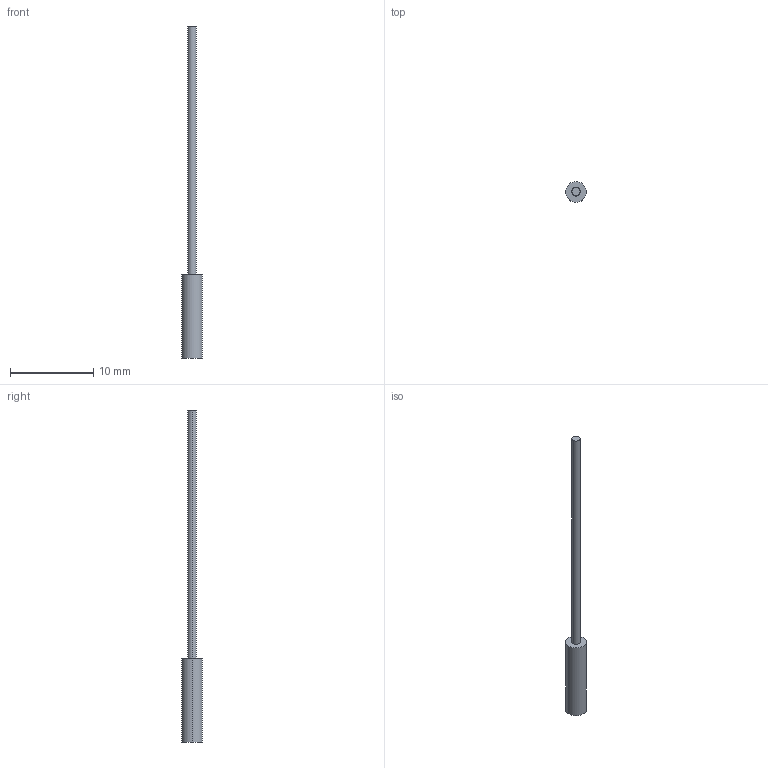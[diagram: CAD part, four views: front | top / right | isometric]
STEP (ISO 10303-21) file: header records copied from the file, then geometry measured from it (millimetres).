
FILE_DESCRIPTION (( 'STEP AP203' ), '1' );
FILE_NAME ('FQ-55_T.STEP', '2020-11-03T06:55:56', ( '' ), ( '' ), 'SwSTEP 2.0', 'SolidWorks 2020', '' );
FILE_SCHEMA (( 'CONFIG_CONTROL_DESIGN' ));
Length unit declared in the file: millimetre
Products named in the file (1): FQ-55_T
Bounding box: 2.5 x 2.5 x 40 mm (x, y, z)
Volume: 72.6 mm3; surface area: 182.7 mm2
Topology: 1 solids, 1 shells, 13 faces, 24 edges, 16 vertices
Faces by surface type: cylinder 8, plane 5
Entity records: 411 total; most frequent: DIRECTION 68, CARTESIAN_POINT 54, ORIENTED_EDGE 48, AXIS2_PLACEMENT_3D 30, EDGE_CURVE 24, VERTEX_POINT 16, EDGE_LOOP 16, CIRCLE 16
